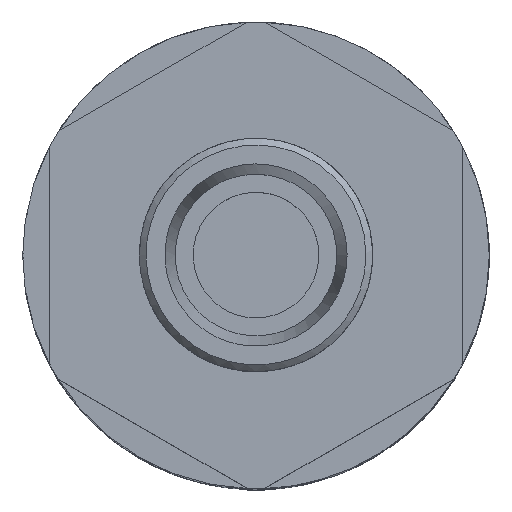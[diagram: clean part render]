
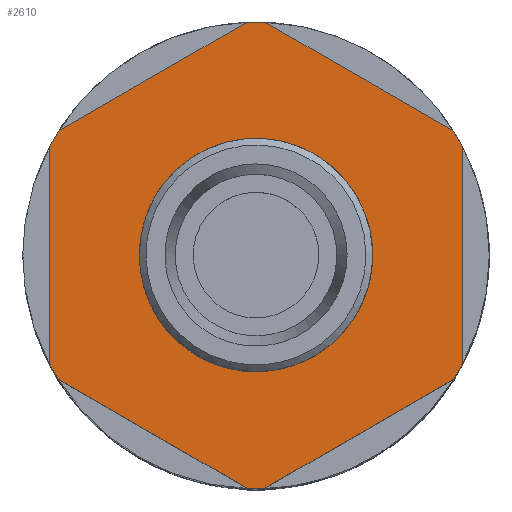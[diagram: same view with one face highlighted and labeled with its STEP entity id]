
A CAD part, top view. The second image highlights one B-rep face of the part: STEP entity #2610.
In plain terms, the highlighted free-form (B-spline) face has degree [1, 1] with [2, 2] control points.
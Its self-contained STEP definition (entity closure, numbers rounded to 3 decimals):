
#2177=CARTESIAN_POINT('V37',(-3.359,8.024,
   119.0));
#2178=VERTEX_POINT('V37',#2177);
#2194=CARTESIAN_POINT('E55',(-3.359,8.024,
   119.0));
#2195=CARTESIAN_POINT('E55',(19.158,8.024,
   119.0));
#2196=CARTESIAN_POINT('E55',(7.9,-11.476,
   119.0));
#2197=CARTESIAN_POINT('E55',(-3.359,-30.976,
   119.0));
#2198=CARTESIAN_POINT('E55',(-14.617,-11.476,
   119.0));
#2199=CARTESIAN_POINT('E55',(-25.875,8.024,
   119.0));
#2200=CARTESIAN_POINT('E55',(-3.359,8.024,
   119.0));
#2208=(BOUNDED_CURVE()B_SPLINE_CURVE(2,(#2194,#2195,#2196,#2197,
   #2198,#2199,#2200),.CIRCULAR_ARC.,.T.,.U.)
   B_SPLINE_CURVE_WITH_KNOTS((3,2,2,3),(2.0,19.333,
   36.667,54.),.UNSPECIFIED.)CURVE()
   GEOMETRIC_REPRESENTATION_ITEM()RATIONAL_B_SPLINE_CURVE((1.0,
   0.5,1.0,0.5,1.0,0.5,1.0)
   )REPRESENTATION_ITEM('E55'));
#2209=EDGE_CURVE('E55',#2178,#2178,#2208,.T.);
#2250=CARTESIAN_POINT('V24',(-4.343,-30.958,
   119.0));
#2251=VERTEX_POINT('V24',#2250);
#2257=CARTESIAN_POINT('V25',(-25.374,-18.808,
   119.0));
#2258=VERTEX_POINT('V25',#2257);
#2259=CARTESIAN_POINT('E30',(-25.374,-18.808,
   119.0));
#2260=CARTESIAN_POINT('E30',(-4.343,-30.958,
   119.0));
#2261=QUASI_UNIFORM_CURVE('E30',1,(#2259,#2260),.POLYLINE_FORM.,.F.,
   .U.);
#2262=EDGE_CURVE('E30',#2258,#2251,#2261,.T.);
#2308=CARTESIAN_POINT('V20',(-25.374,8.855,
   119.0));
#2309=VERTEX_POINT('V20',#2308);
#2315=CARTESIAN_POINT('V21',(-4.343,21.005,
   119.0));
#2316=VERTEX_POINT('V21',#2315);
#2317=CARTESIAN_POINT('E24',(-4.343,21.005,
   119.0));
#2318=CARTESIAN_POINT('E24',(-25.374,8.855,
   119.0));
#2319=QUASI_UNIFORM_CURVE('E24',1,(#2317,#2318),.POLYLINE_FORM.,.F.,
   .U.);
#2320=EDGE_CURVE('E24',#2316,#2309,#2319,.T.);
#2368=CARTESIAN_POINT('V18',(-2.374,21.005,
   119.0));
#2369=VERTEX_POINT('V18',#2368);
#2375=CARTESIAN_POINT('V19',(18.657,8.855,
   119.0));
#2376=VERTEX_POINT('V19',#2375);
#2377=CARTESIAN_POINT('E21',(18.657,8.855,
   119.0));
#2378=CARTESIAN_POINT('E21',(-2.374,21.005,
   119.0));
#2379=QUASI_UNIFORM_CURVE('E21',1,(#2377,#2378),.POLYLINE_FORM.,.F.,
   .U.);
#2380=EDGE_CURVE('E21',#2376,#2369,#2379,.T.);
#2426=CARTESIAN_POINT('V16',(19.641,7.148,
   119.0));
#2427=VERTEX_POINT('V16',#2426);
#2433=CARTESIAN_POINT('V17',(19.641,-17.101,
   119.0));
#2434=VERTEX_POINT('V17',#2433);
#2435=CARTESIAN_POINT('E18',(19.641,-17.101,
   119.0));
#2436=CARTESIAN_POINT('E18',(19.641,7.148,
   119.0));
#2437=QUASI_UNIFORM_CURVE('E18',1,(#2435,#2436),.POLYLINE_FORM.,.F.,
   .U.);
#2438=EDGE_CURVE('E18',#2434,#2427,#2437,.T.);
#2486=CARTESIAN_POINT('V14',(18.657,-18.808,
   119.0));
#2487=VERTEX_POINT('V14',#2486);
#2493=CARTESIAN_POINT('V15',(-2.374,-30.958,
   119.0));
#2494=VERTEX_POINT('V15',#2493);
#2495=CARTESIAN_POINT('E15',(-2.374,-30.958,
   119.0));
#2496=CARTESIAN_POINT('E15',(18.657,-18.808,
   119.0));
#2497=QUASI_UNIFORM_CURVE('E15',1,(#2495,#2496),.POLYLINE_FORM.,.F.,
   .U.);
#2498=EDGE_CURVE('E15',#2494,#2487,#2497,.T.);
#2508=CARTESIAN_POINT('F19',(20.791,-32.276,
   119.0));
#2509=CARTESIAN_POINT('F19',(20.791,22.324,
   119.0));
#2510=CARTESIAN_POINT('F19',(-27.509,-32.276,
   119.0));
#2511=CARTESIAN_POINT('F19',(-27.509,22.324,
   119.0));
#2512=B_SPLINE_SURFACE_WITH_KNOTS('F19',1,1,((#2508,#2510),(#2509,
   #2511)),.PLANE_SURF.,.F.,.F.,.U.,(2,2),(2,2),(0.0,
   1.13),(0.0,1.0),.UNSPECIFIED.);
#2513=ORIENTED_EDGE('E15',*,*,#2498,.T.);
#2514=CARTESIAN_POINT('E49',(19.641,-17.101,
   119.0));
#2515=CARTESIAN_POINT('E49',(19.182,-17.973,
   119.0));
#2516=CARTESIAN_POINT('E49',(18.657,-18.808,
   119.0));
#2524=(BOUNDED_CURVE()B_SPLINE_CURVE(2,(#2514,#2515,#2516),
   .CIRCULAR_ARC.,.F.,.U.)CURVE()GEOMETRIC_REPRESENTATION_ITEM()
   QUASI_UNIFORM_CURVE()RATIONAL_B_SPLINE_CURVE((1.0,
   0.999,1.0))REPRESENTATION_ITEM('E49'));
#2525=EDGE_CURVE('E49',#2434,#2487,#2524,.T.);
#2526=ORIENTED_EDGE('E49',*,*,#2525,.F.);
#2527=ORIENTED_EDGE('E18',*,*,#2438,.T.);
#2528=CARTESIAN_POINT('E50',(18.657,8.855,
   119.0));
#2529=CARTESIAN_POINT('E50',(19.182,8.02,
   119.0));
#2530=CARTESIAN_POINT('E50',(19.641,7.148,
   119.0));
#2538=(BOUNDED_CURVE()B_SPLINE_CURVE(2,(#2528,#2529,#2530),
   .CIRCULAR_ARC.,.F.,.U.)CURVE()GEOMETRIC_REPRESENTATION_ITEM()
   QUASI_UNIFORM_CURVE()RATIONAL_B_SPLINE_CURVE((1.0,
   0.999,1.0))REPRESENTATION_ITEM('E50'));
#2539=EDGE_CURVE('E50',#2376,#2427,#2538,.T.);
#2540=ORIENTED_EDGE('E50',*,*,#2539,.F.);
#2541=ORIENTED_EDGE('E21',*,*,#2380,.T.);
#2542=CARTESIAN_POINT('E51',(-4.343,21.005,
   119.0));
#2543=CARTESIAN_POINT('E51',(-3.359,21.042,
   119.0));
#2544=CARTESIAN_POINT('E51',(-2.374,21.005,
   119.0));
#2552=(BOUNDED_CURVE()B_SPLINE_CURVE(2,(#2542,#2543,#2544),
   .CIRCULAR_ARC.,.F.,.U.)CURVE()GEOMETRIC_REPRESENTATION_ITEM()
   QUASI_UNIFORM_CURVE()RATIONAL_B_SPLINE_CURVE((1.0,
   0.999,1.0))REPRESENTATION_ITEM('E51'));
#2553=EDGE_CURVE('E51',#2316,#2369,#2552,.T.);
#2554=ORIENTED_EDGE('E51',*,*,#2553,.F.);
#2555=ORIENTED_EDGE('E24',*,*,#2320,.T.);
#2556=CARTESIAN_POINT('V23',(-26.359,7.148,
   119.0));
#2557=VERTEX_POINT('V23',#2556);
#2558=CARTESIAN_POINT('E52',(-26.359,7.148,
   119.0));
#2559=CARTESIAN_POINT('E52',(-25.899,8.02,
   119.0));
#2560=CARTESIAN_POINT('E52',(-25.374,8.855,
   119.0));
#2568=(BOUNDED_CURVE()B_SPLINE_CURVE(2,(#2558,#2559,#2560),
   .CIRCULAR_ARC.,.F.,.U.)CURVE()GEOMETRIC_REPRESENTATION_ITEM()
   QUASI_UNIFORM_CURVE()RATIONAL_B_SPLINE_CURVE((1.0,
   0.999,1.0))REPRESENTATION_ITEM('E52'));
#2569=EDGE_CURVE('E52',#2557,#2309,#2568,.T.);
#2570=ORIENTED_EDGE('E52',*,*,#2569,.F.);
#2571=CARTESIAN_POINT('V22',(-26.359,-17.101,
   119.0));
#2572=VERTEX_POINT('V22',#2571);
#2573=CARTESIAN_POINT('E27',(-26.359,7.148,
   119.0));
#2574=CARTESIAN_POINT('E27',(-26.359,-17.101,
   119.0));
#2575=QUASI_UNIFORM_CURVE('E27',1,(#2573,#2574),.POLYLINE_FORM.,.F.,
   .U.);
#2576=EDGE_CURVE('E27',#2557,#2572,#2575,.T.);
#2577=ORIENTED_EDGE('E27',*,*,#2576,.T.);
#2578=CARTESIAN_POINT('E53',(-25.374,-18.808,
   119.0));
#2579=CARTESIAN_POINT('E53',(-25.899,-17.973,
   119.0));
#2580=CARTESIAN_POINT('E53',(-26.359,-17.101,
   119.0));
#2588=(BOUNDED_CURVE()B_SPLINE_CURVE(2,(#2578,#2579,#2580),
   .CIRCULAR_ARC.,.F.,.U.)CURVE()GEOMETRIC_REPRESENTATION_ITEM()
   QUASI_UNIFORM_CURVE()RATIONAL_B_SPLINE_CURVE((1.0,
   0.999,1.0))REPRESENTATION_ITEM('E53'));
#2589=EDGE_CURVE('E53',#2258,#2572,#2588,.T.);
#2590=ORIENTED_EDGE('E53',*,*,#2589,.F.);
#2591=ORIENTED_EDGE('E30',*,*,#2262,.T.);
#2592=CARTESIAN_POINT('E54',(-2.374,-30.958,
   119.0));
#2593=CARTESIAN_POINT('E54',(-3.359,-30.995,
   119.0));
#2594=CARTESIAN_POINT('E54',(-4.343,-30.958,
   119.0));
#2602=(BOUNDED_CURVE()B_SPLINE_CURVE(2,(#2592,#2593,#2594),
   .CIRCULAR_ARC.,.F.,.U.)CURVE()GEOMETRIC_REPRESENTATION_ITEM()
   QUASI_UNIFORM_CURVE()RATIONAL_B_SPLINE_CURVE((1.0,
   0.999,1.0))REPRESENTATION_ITEM('E54'));
#2603=EDGE_CURVE('E54',#2494,#2251,#2602,.T.);
#2604=ORIENTED_EDGE('E54',*,*,#2603,.F.);
#2605=EDGE_LOOP('F19',(#2513,#2526,#2527,#2540,#2541,#2554,#2555,
   #2570,#2577,#2590,#2591,#2604));
#2606=FACE_OUTER_BOUND('F19',#2605,.T.);
#2607=ORIENTED_EDGE('F26',*,*,#2209,.T.);
#2608=EDGE_LOOP('F19',(#2607));
#2609=FACE_BOUND('F19',#2608,.T.);
#2610=ADVANCED_FACE('F19',(#2606,#2609),#2512,.T.);
